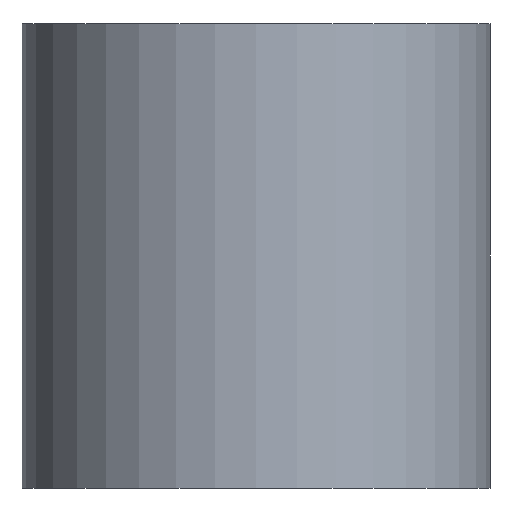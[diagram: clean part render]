
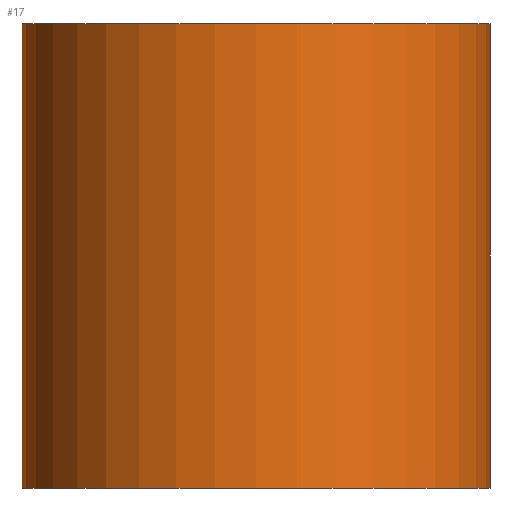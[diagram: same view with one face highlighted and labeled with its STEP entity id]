
A CAD part, front view. The second image highlights one B-rep face of the part: STEP entity #17.
In plain terms, the highlighted cylindrical face has radius 60 mm (diameter 120 mm), a full revolution.
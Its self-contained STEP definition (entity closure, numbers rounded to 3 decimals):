
#17 = ADVANCED_FACE('',(#18),#32,.T.);
#18 = FACE_BOUND('',#19,.F.);
#19 = EDGE_LOOP('',(#20,#50,#77,#78));
#20 = ORIENTED_EDGE('',*,*,#21,.T.);
#21 = EDGE_CURVE('',#22,#24,#26,.T.);
#22 = VERTEX_POINT('',#23);
#23 = CARTESIAN_POINT('',(60.,0.,-59.));
#24 = VERTEX_POINT('',#25);
#25 = CARTESIAN_POINT('',(60.,0.,60.));
#26 = SEAM_CURVE('',#27,(#31,#43),.PCURVE_S1.);
#27 = LINE('',#28,#29);
#28 = CARTESIAN_POINT('',(60.,0.,-59.));
#29 = VECTOR('',#30,1.);
#30 = DIRECTION('',(0.,0.,1.));
#31 = PCURVE('',#32,#37);
#32 = CYLINDRICAL_SURFACE('',#33,60.);
#33 = AXIS2_PLACEMENT_3D('',#34,#35,#36);
#34 = CARTESIAN_POINT('',(0.,0.,-59.));
#35 = DIRECTION('',(-0.,-0.,-1.));
#36 = DIRECTION('',(1.,0.,0.));
#37 = DEFINITIONAL_REPRESENTATION('',(#38),#42);
#38 = LINE('',#39,#40);
#39 = CARTESIAN_POINT('',(-0.,0.));
#40 = VECTOR('',#41,1.);
#41 = DIRECTION('',(-0.,-1.));
#42 = ( GEOMETRIC_REPRESENTATION_CONTEXT(2) 
PARAMETRIC_REPRESENTATION_CONTEXT() REPRESENTATION_CONTEXT('2D SPACE',''
  ) );
#43 = PCURVE('',#32,#44);
#44 = DEFINITIONAL_REPRESENTATION('',(#45),#49);
#45 = LINE('',#46,#47);
#46 = CARTESIAN_POINT('',(-6.283,0.));
#47 = VECTOR('',#48,1.);
#48 = DIRECTION('',(-0.,-1.));
#49 = ( GEOMETRIC_REPRESENTATION_CONTEXT(2) 
PARAMETRIC_REPRESENTATION_CONTEXT() REPRESENTATION_CONTEXT('2D SPACE',''
  ) );
#50 = ORIENTED_EDGE('',*,*,#51,.T.);
#51 = EDGE_CURVE('',#24,#24,#52,.T.);
#52 = SURFACE_CURVE('',#53,(#58,#65),.PCURVE_S1.);
#53 = CIRCLE('',#54,60.);
#54 = AXIS2_PLACEMENT_3D('',#55,#56,#57);
#55 = CARTESIAN_POINT('',(0.,0.,60.));
#56 = DIRECTION('',(0.,0.,1.));
#57 = DIRECTION('',(1.,0.,0.));
#58 = PCURVE('',#32,#59);
#59 = DEFINITIONAL_REPRESENTATION('',(#60),#64);
#60 = LINE('',#61,#62);
#61 = CARTESIAN_POINT('',(-0.,-119.));
#62 = VECTOR('',#63,1.);
#63 = DIRECTION('',(-1.,0.));
#64 = ( GEOMETRIC_REPRESENTATION_CONTEXT(2) 
PARAMETRIC_REPRESENTATION_CONTEXT() REPRESENTATION_CONTEXT('2D SPACE',''
  ) );
#65 = PCURVE('',#66,#71);
#66 = PLANE('',#67);
#67 = AXIS2_PLACEMENT_3D('',#68,#69,#70);
#68 = CARTESIAN_POINT('',(0.,0.,60.));
#69 = DIRECTION('',(0.,0.,1.));
#70 = DIRECTION('',(1.,0.,-0.));
#71 = DEFINITIONAL_REPRESENTATION('',(#72),#76);
#72 = CIRCLE('',#73,60.);
#73 = AXIS2_PLACEMENT_2D('',#74,#75);
#74 = CARTESIAN_POINT('',(0.,0.));
#75 = DIRECTION('',(1.,0.));
#76 = ( GEOMETRIC_REPRESENTATION_CONTEXT(2) 
PARAMETRIC_REPRESENTATION_CONTEXT() REPRESENTATION_CONTEXT('2D SPACE',''
  ) );
#77 = ORIENTED_EDGE('',*,*,#21,.F.);
#78 = ORIENTED_EDGE('',*,*,#79,.F.);
#79 = EDGE_CURVE('',#22,#22,#80,.T.);
#80 = SURFACE_CURVE('',#81,(#86,#93),.PCURVE_S1.);
#81 = CIRCLE('',#82,60.);
#82 = AXIS2_PLACEMENT_3D('',#83,#84,#85);
#83 = CARTESIAN_POINT('',(0.,0.,-59.));
#84 = DIRECTION('',(0.,0.,1.));
#85 = DIRECTION('',(1.,0.,0.));
#86 = PCURVE('',#32,#87);
#87 = DEFINITIONAL_REPRESENTATION('',(#88),#92);
#88 = LINE('',#89,#90);
#89 = CARTESIAN_POINT('',(-0.,0.));
#90 = VECTOR('',#91,1.);
#91 = DIRECTION('',(-1.,0.));
#92 = ( GEOMETRIC_REPRESENTATION_CONTEXT(2) 
PARAMETRIC_REPRESENTATION_CONTEXT() REPRESENTATION_CONTEXT('2D SPACE',''
  ) );
#93 = PCURVE('',#94,#99);
#94 = PLANE('',#95);
#95 = AXIS2_PLACEMENT_3D('',#96,#97,#98);
#96 = CARTESIAN_POINT('',(0.,0.,-59.));
#97 = DIRECTION('',(0.,0.,1.));
#98 = DIRECTION('',(1.,0.,-0.));
#99 = DEFINITIONAL_REPRESENTATION('',(#100),#104);
#100 = CIRCLE('',#101,60.);
#101 = AXIS2_PLACEMENT_2D('',#102,#103);
#102 = CARTESIAN_POINT('',(0.,0.));
#103 = DIRECTION('',(1.,0.));
#104 = ( GEOMETRIC_REPRESENTATION_CONTEXT(2) 
PARAMETRIC_REPRESENTATION_CONTEXT() REPRESENTATION_CONTEXT('2D SPACE',''
  ) );
